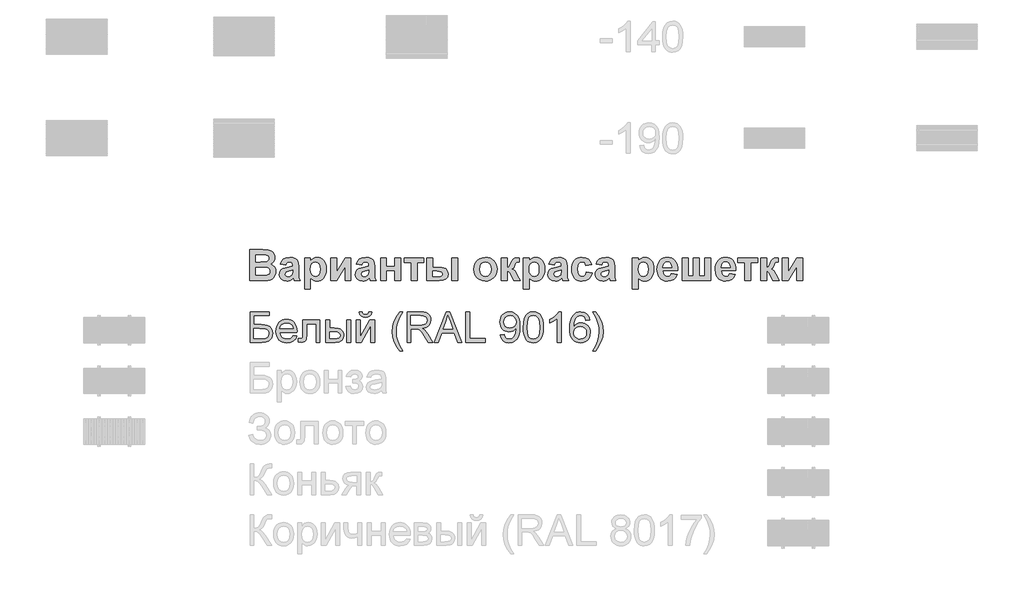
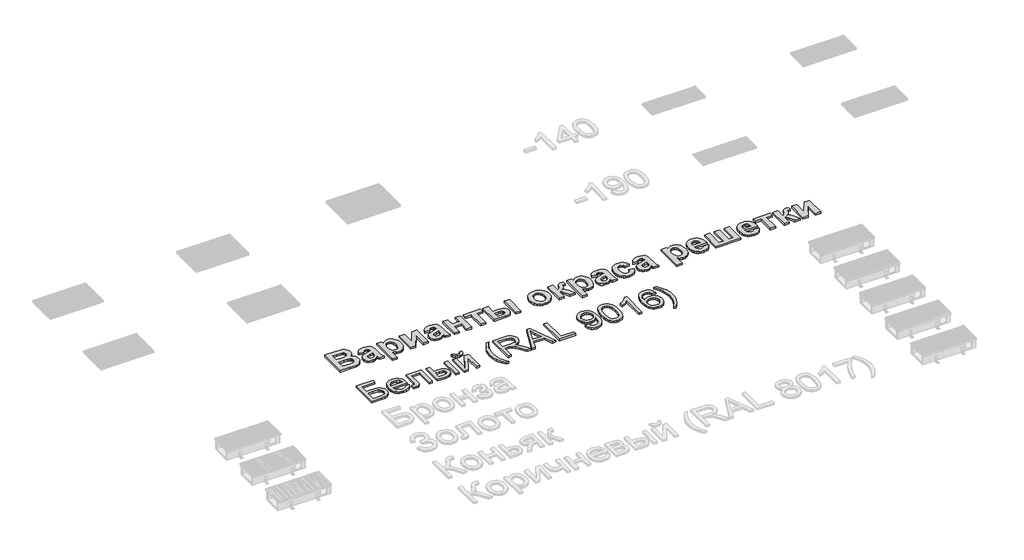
# One storey, part 7 of 12: 2 proxies.
"""IFC4 building model written with IfcOpenShell, lengths in millimetres."""

from ifc_helpers import new_model, si_unit, origin, origin_with_axes, place, context, project, spatial, polyline, outline, extrude, element, save

model = new_model("IFC4")

# Units and contexts
model_context = context("Model", 3, world=origin())
ifc_project = project(units=[si_unit("LENGTHUNIT", "METRE", prefix="MILLI")], contexts=[model_context])

# Site, building, storey
site = spatial("IfcSite", under=ifc_project)
building = spatial("IfcBuilding", under=site)
storey = spatial("IfcBuildingStorey", under=building, Name="Уровень 1", Elevation=0.0)

# Proxies
placement = place(None, origin())
element("IfcBuildingElementProxy", 1, Name="300", ObjectType="300", at=placement, inside=storey, context=model_context, shape_type="SweptSolid", body=[
    extrude(outline(polyline([(7102.1636245, -12613.7438159), (7290.519206, -12613.7438159), (7290.519206, -12651.4149322), (7139.8347408, -12651.4149322), (7139.8347408, -12740.8838335), (7210.3945075, -12740.8838335), (7245.4720557, -12742.7968198), (7272.5665647, -12748.535779), (7293.3702915, -12759.5906329), (7309.5754934, -12777.4513038), (7320.0049479, -12800.4439285), (7323.4814328, -12826.8946439), (7321.0074264, -12849.1055194), (7313.5854071, -12869.8264728), (7301.2521632, -12887.9722522), (7284.0444829, -12902.4576057), (7257.501797, -12911.9489612), (7217.1635362, -12915.1127464), (7102.1636245, -12915.1127464), (7102.1636245, -12613.7438159)]), holes=[polyline([(7139.8347408, -12877.4416301), (7220.5480505, -12877.4416301), (7249.0772993, -12874.3330272), (7269.4763559, -12865.0072186), (7281.7268263, -12849.4642043), (7285.8103165, -12827.7039843), (7283.4742658, -12811.4987824), (7276.4661138, -12798.1998483), (7265.2916982, -12788.3406108), (7250.4568567, -12782.4544989), (7193.6926649, -12778.5549498), (7139.8347408, -12778.5549498), (7139.8347408, -12877.4416301)])]), origin_with_axes(), (0.0, 0.0, 1.0), 20.0),
    extrude(outline(polyline([(7525.5222245, -12849.1882928), (7562.4575769, -12853.8971824), (7549.1494457, -12881.7274553), (7527.9134575, -12902.5311821), (7499.2278589, -12915.4990225), (7463.5708966, -12919.8216359), (7440.1965943, -12917.9569341), (7419.3698748, -12912.3628285), (7401.0907382, -12903.0393192), (7385.3591844, -12889.9864061), (7372.7086423, -12873.5673728), (7363.6725408, -12854.1455027), (7358.2508799, -12831.7207959), (7356.4436596, -12806.2932522), (7358.269274, -12780.0034851), (7363.7461172, -12756.831518), (7372.8741892, -12736.7773507), (7385.65349, -12719.8409833), (7401.3436571, -12706.3856994), (7419.2043279, -12696.7747822), (7439.2355026, -12691.008232), (7461.437181, -12689.0860485), (7482.9237888, -12691.0036334), (7502.3548559, -12696.7563881), (7519.7303824, -12706.3443126), (7535.0503682, -12719.7674069), (7547.5560568, -12736.6669861), (7556.4886915, -12756.6843652), (7561.8482723, -12779.8195441), (7563.6347992, -12806.072523), (7563.41407, -12816.2260661), (7394.1147759, -12816.2260661), (7400.6354842, -12844.424221), (7415.7830254, -12865.1543714), (7437.6444129, -12877.9014826), (7464.3066605, -12882.1505196), (7484.3562293, -12880.1823509), (7501.2420129, -12874.2778449), (7514.9640113, -12864.0691195), (7525.5222245, -12849.1882928)]), holes=[polyline([(7394.1147759, -12778.5549498), (7525.9636829, -12778.5549498), (7520.8685173, -12758.6525338), (7510.8805211, -12744.4155006), (7488.917966, -12731.1717488), (7461.2900282, -12726.7571648), (7435.8969735, -12730.279635), (7414.9001086, -12740.8470453), (7400.3043904, -12757.3189616), (7394.1147759, -12778.5549498)])]), origin_with_axes(), (0.0, 0.0, 1.0), 20.0),
    extrude(outline(polyline([(7620.1414737, -12693.7949381), (7789.6614971, -12693.7949381), (7789.6614971, -12914.8920172), (7751.9903808, -12914.8920172), (7751.9903808, -12731.4660544), (7657.81259, -12731.4660544), (7657.81259, -12837.048187), (7655.2742042, -12885.7557632), (7650.5193295, -12896.783026), (7641.3314766, -12906.3203667), (7627.388749, -12912.9146515), (7608.3692499, -12915.1127464), (7577.7614679, -12913.19976), (7577.7614679, -12877.4416301), (7594.6104632, -12877.4416301), (7611.6433996, -12875.1239735), (7618.4492165, -12867.7663336), (7620.1414737, -12834.9144714), (7620.1414737, -12693.7949381)])), origin_with_axes(), (0.0, 0.0, 1.0), 20.0),
    extrude(outline(polyline([(8053.3593112, -12693.7949381), (8091.0304275, -12693.7949381), (8091.0304275, -12915.1127464), (8053.3593112, -12915.1127464), (8053.3593112, -12693.7949381)])), origin_with_axes(), (0.0, 0.0, 1.0), 20.0),
    extrude(outline(polyline([(7846.1681715, -12693.7949381), (7883.8392878, -12693.7949381), (7883.8392878, -12773.8460602), (7930.4131484, -12773.8460602), (7970.6686358, -12778.5641468), (7986.885334, -12784.4617551), (8000.4946685, -12792.7184066), (8011.2621147, -12803.0489929), (8018.9531476, -12815.1684053), (8023.5677674, -12829.076644), (8025.105974, -12844.7737089), (8019.946429, -12871.7302621), (8004.4677941, -12894.4745665), (7992.605899, -12903.5037702), (7977.6583937, -12909.9532014), (7938.5065523, -12915.1127464), (7846.1681715, -12915.1127464), (7846.1681715, -12693.7949381)]), holes=[polyline([(7883.8392878, -12877.4416301), (7922.5404737, -12877.4416301), (7952.5412504, -12875.4642644), (7972.4988487, -12869.5321672), (7983.7008554, -12859.4062153), (7987.4348577, -12844.8472853), (7984.6665457, -12832.5416326), (7976.3616096, -12821.6707196), (7958.6021063, -12814.0555623), (7927.4700925, -12811.5171765), (7883.8392878, -12811.5171765), (7883.8392878, -12877.4416301)])]), origin_with_axes(), (0.0, 0.0, 1.0), 20.0),
    extrude(outline(polyline([(8147.537102, -12693.7949381), (8185.2082183, -12693.7949381), (8185.2082183, -12862.5791975), (8277.7673283, -12693.7949381), (8326.4749044, -12693.7949381), (8326.4749044, -12915.1127464), (8288.8037881, -12915.1127464), (8288.8037881, -12747.3585566), (8196.8332893, -12915.1127464), (8147.537102, -12915.1127464), (8147.537102, -12693.7949381)])), origin_with_axes(), (0.0, 0.0, 1.0), 20.0),
    extrude(outline(polyline([(8269.96823, -12613.7438159), (8298.2215672, -12613.7438159), (8292.1423172, -12637.8676778), (8279.937832, -12655.6455752), (8262.1599346, -12666.5992616), (8239.360448, -12670.2504904), (8214.6203838, -12666.6268527), (8195.4353378, -12655.7559398), (8182.3203446, -12638.0056335), (8175.7904392, -12613.7438159), (8204.0437764, -12613.7438159), (8208.016902, -12626.1506362), (8214.6387779, -12634.9706071), (8223.9461924, -12640.2405166), (8235.9759336, -12641.9971532), (8249.5507792, -12640.2956989), (8259.3732285, -12635.1913363), (8265.9951044, -12626.4265477), (8269.96823, -12613.7438159)])), origin_with_axes(), (0.0, 0.0, 1.0), 20.0),
    extrude(outline(polyline([(8576.04605, -12999.8727581), (8546.8546136, -12958.9090979), (8522.5560079, -12911.5075028), (8506.166865, -12859.9672353), (8500.7038174, -12806.5875578), (8504.7873075, -12759.7745739), (8517.0377779, -12714.984941), (8541.3547778, -12664.2540139), (8576.04605, -12613.7438159), (8604.2993872, -12613.7438159), (8569.0562921, -12673.4142755), (8547.8662891, -12731.2453252), (8540.7477725, -12768.9348356), (8538.3749337, -12806.808287), (8542.495212, -12855.1019959), (8554.856047, -12903.3773107), (8575.4574388, -12951.6342315), (8604.2993872, -12999.8727581), (8576.04605, -12999.8727581)])), origin_with_axes(), (0.0, 0.0, 1.0), 20.0),
    extrude(outline(polyline([(8646.679393, -12915.1127464), (8646.679393, -12613.7438159), (8776.5417373, -12613.7438159), (8811.4445416, -12615.776364), (8836.8375963, -12621.874008), (8855.397243, -12633.1311971), (8869.7998231, -12650.64238), (8879.0428582, -12672.3566148), (8882.12387, -12696.2229593), (8877.0195073, -12725.9110363), (8861.7064192, -12750.5223417), (8850.1066401, -12760.5517246), (8835.7247533, -12768.5669536), (8798.614657, -12778.5549498), (8820.0253892, -12794.6681812), (8850.5595948, -12833.4429435), (8900.8122753, -12915.1127464), (8857.0343179, -12915.1127464), (8817.8180972, -12852.6463836), (8789.4911836, -12811.2964473), (8769.5887676, -12791.7619134), (8751.6729145, -12784.5882145), (8729.820724, -12783.2638393), (8684.3505093, -12783.2638393), (8684.3505093, -12915.1127464), (8646.679393, -12915.1127464)]), holes=[polyline([(8684.3505093, -12745.592723), (8768.6690626, -12745.592723), (8792.884895, -12744.2591508), (8811.6744679, -12740.2584341), (8825.8195306, -12733.3238585), (8836.1018324, -12723.1887095), (8842.3650233, -12710.929042), (8844.4527536, -12697.6209108), (8840.4704311, -12679.2452052), (8828.5234633, -12664.4379549), (8807.9680568, -12654.6706879), (8778.1604181, -12651.4149322), (8684.3505093, -12651.4149322), (8684.3505093, -12745.592723)])]), origin_with_axes(), (0.0, 0.0, 1.0), 20.0),
    extrude(outline(polyline([(8912.9523812, -12915.1127464), (9033.2497936, -12613.7438159), (9065.3291036, -12613.7438159), (9185.626516, -12915.1127464), (9145.8216841, -12915.1127464), (9111.3143529, -12820.9349556), (8987.1909678, -12820.9349556), (8952.757213, -12915.1127464), (8912.9523812, -12915.1127464)]), holes=[polyline([(9001.0233308, -12783.2638393), (9097.5555663, -12783.2638393), (9070.4058751, -12709.1724055), (9049.2894486, -12651.4149322), (9030.5274668, -12702.6976824), (9001.0233308, -12783.2638393)])]), origin_with_axes(), (0.0, 0.0, 1.0), 20.0),
    extrude(outline(polyline([(9225.8728062, -12915.1127464), (9225.8728062, -12613.7438159), (9263.5439226, -12613.7438159), (9263.5439226, -12877.4416301), (9414.2283878, -12877.4416301), (9414.2283878, -12915.1127464), (9225.8728062, -12915.1127464)])), origin_with_axes(), (0.0, 0.0, 1.0), 20.0),
    extrude(outline(polyline([(9564.912853, -12839.7705138), (9602.5839693, -12835.0616242), (9609.0219042, -12856.4447652), (9619.5065411, -12871.0036952), (9633.7803625, -12879.3638135), (9651.5858511, -12882.1505196), (9667.5611267, -12880.3570949), (9682.0832685, -12874.9768207), (9694.1497979, -12866.5983083), (9702.7582366, -12855.8101688), (9715.0822834, -12823.0686712), (9720.526937, -12779.3642902), (9720.3062078, -12772.0066503), (9707.255594, -12787.9359406), (9690.1766724, -12800.5542931), (9670.3018476, -12808.7764557), (9648.8635243, -12811.5171765), (9630.9683645, -12809.8433135), (9614.512543, -12804.8217242), (9599.4960598, -12796.4524088), (9585.9189149, -12784.7353673), (9574.6686237, -12770.2822034), (9566.6327013, -12753.704521), (9561.8111479, -12735.0023201), (9560.2039635, -12714.1756006), (9561.8893229, -12692.6545039), (9566.945401, -12673.3406992), (9575.372198, -12656.2341864), (9587.1697137, -12641.3349656), (9601.5056152, -12629.2638376), (9617.5475695, -12620.6416033), (9635.2955765, -12615.4682628), (9654.7496362, -12613.7438159), (9682.8466236, -12617.6801533), (9708.4236193, -12629.4891653), (9729.8159573, -12648.5822409), (9745.3589716, -12674.3707687), (9754.822736, -12710.0185341), (9757.9773241, -12758.689322), (9754.831933, -12810.2939689), (9745.3957598, -12850.1815742), (9729.751578, -12880.1547598), (9707.9821609, -12902.0161474), (9681.0256077, -12915.3702638), (9649.8200175, -12919.8216359), (9617.6119488, -12914.5701204), (9591.9153914, -12898.815574), (9573.944356, -12873.551278), (9564.912853, -12839.7705138)]), holes=[polyline([(9720.3062078, -12713.2926838), (9716.2411117, -12687.7616734), (9704.0458236, -12668.1167748), (9685.1182949, -12655.5903929), (9660.8564773, -12651.4149322), (9635.6933489, -12655.9122896), (9615.5334155, -12669.4043618), (9602.2896637, -12690.0517388), (9597.8750798, -12716.0150106), (9602.0505404, -12739.2927438), (9614.5769224, -12757.769617), (9634.240215, -12769.8269494), (9659.8264078, -12773.8460602), (9683.8950873, -12769.8269494), (9703.2732714, -12757.769617), (9716.0479737, -12738.6121621), (9720.3062078, -12713.2926838)])]), origin_with_axes(), (0.0, 0.0, 1.0), 20.0),
    extrude(outline(polyline([(9790.9395508, -12766.8563023), (9793.7078629, -12718.6177757), (9802.0127989, -12680.1465161), (9815.7715855, -12650.8539122), (9834.9014493, -12630.1513529), (9859.5403459, -12617.8457002), (9889.8262311, -12613.7438159), (9913.039585, -12616.1718371), (9933.8249178, -12623.4559006), (9951.207342, -12635.3108979), (9964.2119706, -12651.4517204), (9974.0344198, -12671.7404125), (9981.8703063, -12696.0390183), (9987.0022602, -12726.8951206), (9988.7129114, -12766.8563023), (9985.9721906, -12814.8189174), (9977.750028, -12853.1982066), (9964.0740148, -12882.5184016), (9944.9717422, -12903.3037343), (9920.2776633, -12915.6921605), (9889.8262311, -12919.8216359), (9869.0776866, -12918.0282112), (9850.6835869, -12912.647937), (9834.6439319, -12903.6808134), (9820.9587216, -12891.1268403), (9807.8253344, -12868.4331197), (9798.4443435, -12840.1567899), (9792.815749, -12806.2978507), (9790.9395508, -12766.8563023)]), holes=[polyline([(9828.6106671, -12766.7827259), (9833.0252511, -12826.0393183), (9838.543481, -12846.307317), (9846.2690029, -12860.3351173), (9865.9874779, -12876.696669), (9889.8262311, -12882.1505196), (9913.6649844, -12876.6782749), (9933.3834594, -12860.2615409), (9941.1089813, -12846.2107479), (9946.6272112, -12825.9473478), (9951.0417951, -12766.7827259), (9946.774364, -12708.8597058), (9941.4400751, -12688.6583857), (9933.9720706, -12674.2971923), (9914.2903838, -12657.1354973), (9889.3847727, -12651.4149322), (9865.8035369, -12656.4549156), (9846.8576141, -12671.5748656), (9838.8745748, -12687.2098504), (9833.1724039, -12708.2894887), (9828.6106671, -12766.7827259)])]), origin_with_axes(), (0.0, 0.0, 1.0), 20.0),
    extrude(outline(polyline([(10162.9418244, -12915.1127464), (10125.2707081, -12915.1127464), (10125.2707081, -12680.2568807), (10089.5861545, -12705.6775265), (10049.9284754, -12724.6970257), (10049.9284754, -12689.0860485), (10079.5153849, -12672.9912113), (10105.1475629, -12653.8429534), (10125.3534815, -12633.480685), (10138.6616127, -12613.7438159), (10162.9418244, -12613.7438159), (10162.9418244, -12915.1127464)])), origin_with_axes(), (0.0, 0.0, 1.0), 20.0),
    extrude(outline(polyline([(10445.4751967, -12693.7949381), (10407.8040804, -12698.5038276), (10401.7340274, -12679.8338164), (10393.5302589, -12667.0867052), (10376.4421403, -12655.3328755), (10355.7855662, -12651.4149322), (10338.2743833, -12653.6958006), (10321.7932699, -12660.5384057), (10307.6390101, -12674.9501829), (10296.0783184, -12694.7882195), (10288.2700231, -12722.8484187), (10285.3729524, -12761.9266836), (10300.4837053, -12744.295939), (10318.5926965, -12731.8707246), (10338.6882505, -12724.5038876), (10359.7586918, -12722.0482753), (10377.8584859, -12723.7267369), (10394.5603285, -12728.7621217), (10409.8642195, -12737.1544297), (10423.7701589, -12748.903661), (10435.3262521, -12763.3108396), (10443.5806044, -12779.6769899), (10448.5332157, -12798.0021117), (10450.1840862, -12818.2862052), (10447.0754833, -12845.2611525), (10437.7496748, -12870.2679312), (10422.9792127, -12891.4763282), (10403.5366492, -12907.0561307), (10380.3049012, -12916.6302596), (10354.1668855, -12919.8216359), (10331.7099889, -12917.7063144), (10311.4281947, -12911.36035), (10293.3215027, -12900.7837427), (10277.3899131, -12885.9764924), (10264.4013794, -12866.3131997), (10255.1238553, -12841.1684653), (10249.5573409, -12810.5422893), (10247.7018361, -12774.4346714), (10249.7619752, -12733.9538564), (10255.9423927, -12699.4051385), (10266.2430886, -12670.7885178), (10280.6640628, -12648.1039943), (10296.2944491, -12633.0714163), (10314.4172359, -12622.3338605), (10335.0324232, -12615.8913271), (10358.140011, -12613.7438159), (10391.1942083, -12619.0597108), (10417.6633178, -12635.0073953), (10436.2045704, -12660.3360706), (10445.4751967, -12693.7949381)]), holes=[polyline([(10285.3729524, -12817.6975941), (10287.5526532, -12834.3902396), (10294.0917556, -12850.328727), (10304.2452987, -12864.0323314), (10317.2683213, -12874.0203275), (10332.9860796, -12880.1179716), (10351.2238295, -12882.1505196), (10376.0834553, -12877.9382708), (10395.6271863, -12865.3015242), (10408.291524, -12845.4358965), (10412.5129699, -12819.537004), (10408.3467063, -12794.6773782), (10395.8479155, -12775.7222584), (10375.9730907, -12763.7201083), (10349.6787251, -12759.7193916), (10324.8558875, -12763.7201083), (10304.0981459, -12775.7222584), (10290.0542507, -12794.2175257), (10285.3729524, -12817.6975941)])]), origin_with_axes(), (0.0, 0.0, 1.0), 20.0),
    extrude(outline(polyline([(10501.9818711, -12999.8727581), (10473.7285339, -12999.8727581), (10502.5704823, -12951.6342315), (10523.171874, -12903.3773107), (10535.5327091, -12855.1019959), (10539.6529874, -12806.808287), (10537.2801486, -12769.2107471), (10530.1616319, -12731.9075128), (10521.1669172, -12702.3481945), (10509.1923582, -12674.0028867), (10473.7285339, -12613.7438159), (10501.9818711, -12613.7438159), (10536.6731433, -12664.2540139), (10560.9901431, -12714.984941), (10573.2406136, -12759.7745739), (10577.3241037, -12806.5875578), (10571.833465, -12859.9672353), (10555.3615486, -12911.5075028), (10531.0353517, -12958.9090979), (10501.9818711, -12999.8727581)])), origin_with_axes(), (0.0, 0.0, 1.0), 20.0),
])
element("IfcBuildingElementProxy", 2, Name="300_", ObjectType="300_", at=placement, inside=storey, context=model_context, shape_type="SweptSolid", body=[
    extrude(outline(polyline([(7098.3516663, -12000.3985377), (7223.9862873, -12000.3985377), (7279.5919429, -12003.435024), (7296.956849, -12008.1320887), (7312.385995, -12016.1503104), (7325.6421556, -12027.4232658), (7336.4881051, -12041.8845319), (7343.7187381, -12058.9173223), (7346.1289491, -12077.9048507), (7343.2537762, -12098.5909137), (7334.6282572, -12117.530997), (7321.0684481, -12133.3397039), (7303.3904043, -12144.6316374), (7325.7465348, -12155.6009441), (7342.2574291, -12172.2636628), (7352.4486363, -12193.5000889), (7355.8457053, -12218.1905182), (7353.4070273, -12238.6962898), (7346.0909931, -12258.6137422), (7334.5523451, -12276.2633189), (7319.4458257, -12289.9654633), (7300.5911435, -12299.444994), (7277.8080072, -12304.4267294), (7202.9586197, -12306.4763576), (7098.3516663, -12306.4763576), (7098.3516663, -12000.3985377)]), holes=[polyline([(7156.6522034, -12053.8406967), (7156.6522034, -12121.85799), (7201.1367279, -12121.85799), (7250.4796304, -12120.871132), (7266.0131557, -12117.3222386), (7277.8459633, -12110.3193421), (7285.3327998, -12100.204047), (7287.828412, -12087.3179583), (7285.6744045, -12074.9917217), (7279.2123821, -12065.1895643), (7268.5182569, -12058.329003), (7253.667941, -12054.8275548), (7195.6710525, -12053.8406967), (7156.6522034, -12053.8406967)]), polyline([(7156.6522034, -12175.3001491), (7156.6522034, -12253.0341986), (7218.2928755, -12253.0341986), (7263.9919945, -12251.2123068), (7277.4853805, -12247.1415174), (7288.2079728, -12239.6357028), (7295.2108693, -12228.8466873), (7297.5451682, -12214.9262954), (7295.7422544, -12202.8562623), (7290.3335132, -12192.7599454), (7281.5277029, -12184.884059), (7269.533582, -12179.4753178), (7247.9745292, -12176.3439413), (7210.4739233, -12175.3001491), (7156.6522034, -12175.3001491)])]), origin_with_axes(), (0.0, 0.0, 1.0), 20.0),
    extrude(outline(polyline([(7453.0132672, -12151.0082586), (7399.5711082, -12141.2915024), (7411.1572013, -12113.2799162), (7428.9111571, -12093.6186674), (7454.7877139, -12082.0041072), (7490.7416096, -12078.1325872), (7523.2509912, -12080.4763751), (7546.2333969, -12087.5077387), (7561.7574332, -12098.1354407), (7571.8917062, -12111.268244), (7577.4712498, -12131.6791254), (7579.3310977, -12164.1410619), (7579.3310977, -12233.0693011), (7582.4055401, -12276.4910553), (7593.906232, -12306.4763576), (7535.6056948, -12306.4763576), (7530.1400195, -12287.9537912), (7528.0903912, -12280.5903119), (7513.0028499, -12294.0172748), (7496.8904944, -12303.6296517), (7479.7153687, -12309.4084647), (7461.4395167, -12311.3347357), (7431.710418, -12306.656649), (7409.0221718, -12292.6223889), (7394.646307, -12271.4523859), (7389.854352, -12245.3670707), (7391.9893814, -12227.4897575), (7398.3944697, -12211.6620726), (7408.6521001, -12198.5862035), (7422.3447555, -12188.9643375), (7466.7533678, -12175.2242369), (7521.0305606, -12160.7250148), (7521.0305606, -12154.57613), (7519.2181578, -12139.4316546), (7513.7809495, -12129.3732937), (7503.3335388, -12123.7368159), (7486.4905288, -12121.85799), (7474.4015177, -12123.4711234), (7465.3110368, -12128.3105234), (7458.4409865, -12137.2112239), (7453.0132672, -12151.0082586)]), holes=[polyline([(7521.0305606, -12204.4504177), (7488.1605963, -12212.5350625), (7458.7066791, -12221.7583896), (7450.7928366, -12230.0517928), (7448.1548891, -12240.3568683), (7450.2709405, -12250.6904107), (7456.6190947, -12259.5246881), (7466.2314717, -12265.5881717), (7478.1401914, -12267.6093329), (7492.4306551, -12265.256056), (7505.9999533, -12258.1962253), (7514.1605103, -12250.2634048), (7518.9050201, -12240.736429), (7521.0305606, -12215.0022076), (7521.0305606, -12204.4504177)])]), origin_with_axes(), (0.0, 0.0, 1.0), 20.0),
    extrude(outline(polyline([(7637.6316348, -12082.9909653), (7695.932172, -12082.9909653), (7695.932172, -12115.1777202), (7707.983227, -12100.204047), (7723.6401096, -12088.3807285), (7742.0677858, -12080.6946225), (7762.4312222, -12078.1325872), (7780.2919295, -12080.0375079), (7796.7530065, -12085.75227), (7811.814453, -12095.2768736), (7825.4762692, -12108.6113185), (7836.81802, -12125.3428325), (7844.9192706, -12145.0586432), (7849.7800209, -12167.7587507), (7851.400271, -12193.4431548), (7849.7278313, -12219.8558412), (7844.7105121, -12243.1466401), (7836.3483135, -12263.3155515), (7824.6412354, -12280.3625754), (7810.5524134, -12293.9128955), (7795.0449829, -12303.5916957), (7778.118944, -12309.3989757), (7759.7742966, -12311.3347357), (7742.4853027, -12309.531822), (7726.9043323, -12304.1230808), (7711.7978129, -12294.3304124), (7695.932172, -12279.3757173), (7695.932172, -12389.0687853), (7637.6316348, -12389.0687853), (7637.6316348, -12082.9909653)]), holes=[polyline([(7695.932172, -12190.8621414), (7699.5854446, -12224.9846563), (7710.5452623, -12248.8590299), (7726.761997, -12262.9217571), (7746.1860204, -12267.6093329), (7764.6231857, -12263.310807), (7779.701238, -12250.4152292), (7789.7501099, -12227.708005), (7793.0997339, -12193.9745399), (7789.6552197, -12162.0914336), (7779.3216773, -12139.6214349), (7763.8830422, -12126.2988513), (7745.1232502, -12121.85799), (7725.7371829, -12126.2134501), (7709.9379651, -12139.2798302), (7699.4336203, -12160.8863281), (7695.932172, -12190.8621414)])]), origin_with_axes(), (0.0, 0.0, 1.0), 20.0),
    extrude(outline(polyline([(7895.1256739, -12082.9909653), (7953.426211, -12082.9909653), (7953.426211, -12220.4678829), (8036.0186386, -12082.9909653), (8094.3191758, -12082.9909653), (8094.3191758, -12306.4763576), (8036.0186386, -12306.4763576), (8036.0186386, -12168.9235278), (7953.426211, -12306.4763576), (7895.1256739, -12306.4763576), (7895.1256739, -12082.9909653)])), origin_with_axes(), (0.0, 0.0, 1.0), 20.0),
    extrude(outline(polyline([(8201.2034939, -12151.0082586), (8147.7613348, -12141.2915024), (8159.3474279, -12113.2799162), (8177.1013838, -12093.6186674), (8202.9779406, -12082.0041072), (8238.9318363, -12078.1325872), (8271.4412178, -12080.4763751), (8294.4236236, -12087.5077387), (8309.9476598, -12098.1354407), (8320.0819329, -12111.268244), (8325.6614765, -12131.6791254), (8327.5213243, -12164.1410619), (8327.5213243, -12233.0693011), (8330.5957667, -12276.4910553), (8342.0964586, -12306.4763576), (8283.7959215, -12306.4763576), (8278.3302461, -12287.9537912), (8276.2806179, -12280.5903119), (8261.1930765, -12294.0172748), (8245.080721, -12303.6296517), (8227.9055953, -12309.4084647), (8209.6297434, -12311.3347357), (8179.9006446, -12306.656649), (8157.2123985, -12292.6223889), (8142.8365336, -12271.4523859), (8138.0445786, -12245.3670707), (8140.1796081, -12227.4897575), (8146.5846964, -12211.6620726), (8156.8423267, -12198.5862035), (8170.5349821, -12188.9643375), (8214.9435944, -12175.2242369), (8269.2207872, -12160.7250148), (8269.2207872, -12154.57613), (8267.4083844, -12139.4316546), (8261.9711761, -12129.3732937), (8251.5237654, -12123.7368159), (8234.6807554, -12121.85799), (8222.5917443, -12123.4711234), (8213.5012634, -12128.3105234), (8206.6312131, -12137.2112239), (8201.2034939, -12151.0082586)]), holes=[polyline([(8269.2207872, -12204.4504177), (8236.3508229, -12212.5350625), (8206.8969057, -12221.7583896), (8198.9830633, -12230.0517928), (8196.3451158, -12240.3568683), (8198.4611672, -12250.6904107), (8204.8093214, -12259.5246881), (8214.4216983, -12265.5881717), (8226.3304181, -12267.6093329), (8240.6208818, -12265.256056), (8254.19018, -12258.1962253), (8262.3507369, -12250.2634048), (8267.0952468, -12240.736429), (8269.2207872, -12215.0022076), (8269.2207872, -12204.4504177)])]), origin_with_axes(), (0.0, 0.0, 1.0), 20.0),
    extrude(outline(polyline([(8385.8218615, -12082.9909653), (8444.1223986, -12082.9909653), (8444.1223986, -12165.5833929), (8526.7148262, -12165.5833929), (8526.7148262, -12082.9909653), (8585.0153634, -12082.9909653), (8585.0153634, -12306.4763576), (8526.7148262, -12306.4763576), (8526.7148262, -12209.3087957), (8444.1223986, -12209.3087957), (8444.1223986, -12306.4763576), (8385.8218615, -12306.4763576), (8385.8218615, -12082.9909653)])), origin_with_axes(), (0.0, 0.0, 1.0), 20.0),
    extrude(outline(polyline([(8619.02401, -12082.9909653), (8813.3591338, -12082.9909653), (8813.3591338, -12126.7163681), (8745.3418405, -12126.7163681), (8745.3418405, -12306.4763576), (8687.0413034, -12306.4763576), (8687.0413034, -12126.7163681), (8619.02401, -12126.7163681), (8619.02401, -12082.9909653)])), origin_with_axes(), (0.0, 0.0, 1.0), 20.0),
    extrude(outline(polyline([(8842.5094024, -12082.9909653), (8900.8099396, -12082.9909653), (8900.8099396, -12175.3001491), (8957.8958822, -12175.3001491), (8987.5395798, -12176.5432107), (9009.2125008, -12180.2723954), (9025.5431037, -12188.1672598), (9039.159847, -12201.9073604), (9048.3547071, -12220.0598551), (9051.4196605, -12241.191902), (9046.0204083, -12269.7064062), (9039.271343, -12280.9247998), (9029.8226516, -12290.1172877), (9002.8263905, -12302.3865901), (8965.031625, -12306.4763576), (8842.5094024, -12306.4763576), (8842.5094024, -12082.9909653)]), holes=[polyline([(8900.8099396, -12267.6093329), (8953.7966256, -12267.6093329), (8971.6170047, -12266.0246666), (8983.781928, -12261.2706677), (8990.7848245, -12252.9487974), (8993.1191234, -12240.6605169), (8990.1016151, -12227.8598293), (8981.0490903, -12219.8226296), (8964.1776132, -12215.5810378), (8937.7032482, -12214.1671738), (8900.8099396, -12214.1671738), (8900.8099396, -12267.6093329)])]), origin_with_axes(), (0.0, 0.0, 1.0), 20.0),
    extrude(outline(polyline([(9085.4283072, -12082.9909653), (9143.7288443, -12082.9909653), (9143.7288443, -12306.4763576), (9085.4283072, -12306.4763576), (9085.4283072, -12082.9909653)])), origin_with_axes(), (0.0, 0.0, 1.0), 20.0),
    extrude(outline(polyline([(9304.0553214, -12191.5453508), (9307.6516599, -12162.6323078), (9318.4406753, -12134.6491886), (9335.8150704, -12110.3857652), (9359.167548, -12092.6318093), (9387.0462879, -12081.7573927), (9417.9994702, -12078.1325872), (9441.9900843, -12080.1869599), (9463.7080782, -12086.3500783), (9483.1534518, -12096.6219421), (9500.3262053, -12111.0025515), (9514.3580932, -12128.5240264), (9524.3808702, -12148.2184868), (9530.3945365, -12170.0859327), (9532.3990919, -12194.1263642), (9530.3731862, -12218.3589483), (9524.2954691, -12240.4232914), (9514.1659405, -12260.3193935), (9499.9846006, -12278.0472546), (9482.7335627, -12292.6105276), (9463.3949405, -12303.0128655), (9441.968734, -12309.2542682), (9418.4549431, -12311.3347357), (9388.7258444, -12307.8712435), (9360.4200986, -12297.480767), (9336.1282081, -12280.3910424), (9318.4406753, -12256.8298065), (9307.6516599, -12227.1101967), (9304.0553214, -12191.5453508)]), holes=[polyline([(9362.3558586, -12194.7336615), (9366.388692, -12225.9050912), (9378.4871921, -12248.8210738), (9396.5068405, -12262.9122681), (9418.3031188, -12267.6093329), (9440.0804191, -12262.9122681), (9458.0431334, -12248.8210738), (9470.0846994, -12225.791223), (9474.0985548, -12194.2781885), (9470.0846994, -12163.4483635), (9458.0431334, -12140.6462491), (9440.0804191, -12126.5550548), (9418.3031188, -12121.85799), (9396.5068405, -12126.5550548), (9378.4871921, -12140.6462491), (9366.388692, -12163.5622317), (9362.3558586, -12194.7336615)])]), origin_with_axes(), (0.0, 0.0, 1.0), 20.0),
    extrude(outline(polyline([(9576.1244948, -12082.9909653), (9634.4250319, -12082.9909653), (9634.4250319, -12175.3001491), (9646.7322905, -12172.2162177), (9654.8074463, -12166.3045584), (9669.2687123, -12134.3075839), (9680.8832724, -12107.3397899), (9693.5606028, -12092.1763364), (9708.8189465, -12085.287308), (9728.1765467, -12082.9909653), (9751.0261062, -12083.9778233), (9751.2538427, -12121.85799), (9732.5414958, -12122.9966724), (9722.1035741, -12126.4127195), (9715.4612603, -12135.8258271), (9708.2875614, -12154.6520422), (9696.0467259, -12180.2913735), (9679.3650293, -12193.7468034), (9692.6117008, -12199.6157621), (9704.7956021, -12209.5555103), (9725.9750941, -12241.6473749), (9728.2524589, -12245.9743679), (9760.7428624, -12306.4763576), (9695.2306702, -12306.4763576), (9667.5986448, -12243.9247397), (9652.8716862, -12219.556937), (9645.1476242, -12215.5146146), (9634.4250319, -12214.1671738), (9634.4250319, -12306.4763576), (9576.1244948, -12306.4763576), (9576.1244948, -12082.9909653)])), origin_with_axes(), (0.0, 0.0, 1.0), 20.0),
    extrude(outline(polyline([(9789.8931309, -12082.9909653), (9848.1936681, -12082.9909653), (9848.1936681, -12115.1777202), (9860.2447231, -12100.204047), (9875.9016057, -12088.3807285), (9894.3292819, -12080.6946225), (9914.6927183, -12078.1325872), (9932.5534256, -12080.0375079), (9949.0145026, -12085.75227), (9964.0759491, -12095.2768736), (9977.7377653, -12108.6113185), (9989.0795161, -12125.3428325), (9997.1807667, -12145.0586432), (10002.041517, -12167.7587507), (10003.6617671, -12193.4431548), (10001.9893274, -12219.8558412), (9996.9720082, -12243.1466401), (9988.6098096, -12263.3155515), (9976.9027315, -12280.3625754), (9962.8139095, -12293.9128955), (9947.306479, -12303.5916957), (9930.3804401, -12309.3989757), (9912.0357927, -12311.3347357), (9894.7467988, -12309.531822), (9879.1658284, -12304.1230808), (9864.059309, -12294.3304124), (9848.1936681, -12279.3757173), (9848.1936681, -12389.0687853), (9789.8931309, -12389.0687853), (9789.8931309, -12082.9909653)]), holes=[polyline([(9848.1936681, -12190.8621414), (9851.8469407, -12224.9846563), (9862.8067584, -12248.8590299), (9879.0234931, -12262.9217571), (9898.4475165, -12267.6093329), (9916.8846818, -12263.310807), (9931.9627341, -12250.4152292), (9942.011606, -12227.708005), (9945.36123, -12193.9745399), (9941.9167158, -12162.0914336), (9931.5831734, -12139.6214349), (9916.1445383, -12126.2988513), (9897.3847463, -12121.85799), (9877.998679, -12126.2134501), (9862.1994612, -12139.2798302), (9851.6951164, -12160.8863281), (9848.1936681, -12190.8621414)])]), origin_with_axes(), (0.0, 0.0, 1.0), 20.0),
    extrude(outline(polyline([(10095.9709509, -12151.0082586), (10042.5287919, -12141.2915024), (10054.114885, -12113.2799162), (10071.8688408, -12093.6186674), (10097.7453976, -12082.0041072), (10133.6992933, -12078.1325872), (10166.2086749, -12080.4763751), (10189.1910806, -12087.5077387), (10204.7151169, -12098.1354407), (10214.8493899, -12111.268244), (10220.4289335, -12131.6791254), (10222.2887814, -12164.1410619), (10222.2887814, -12233.0693011), (10225.3632238, -12276.4910553), (10236.8639157, -12306.4763576), (10178.5633785, -12306.4763576), (10173.0977032, -12287.9537912), (10171.0480749, -12280.5903119), (10155.9605336, -12294.0172748), (10139.8481781, -12303.6296517), (10122.6730524, -12309.4084647), (10104.3972004, -12311.3347357), (10074.6681017, -12306.656649), (10051.9798555, -12292.6223889), (10037.6039907, -12271.4523859), (10032.8120357, -12245.3670707), (10034.9470651, -12227.4897575), (10041.3521534, -12211.6620726), (10051.6097838, -12198.5862035), (10065.3024392, -12188.9643375), (10109.7110515, -12175.2242369), (10163.9882443, -12160.7250148), (10163.9882443, -12154.57613), (10162.1758415, -12139.4316546), (10156.7386332, -12129.3732937), (10146.2912225, -12123.7368159), (10129.4482125, -12121.85799), (10117.3592014, -12123.4711234), (10108.2687205, -12128.3105234), (10101.3986702, -12137.2112239), (10095.9709509, -12151.0082586)]), holes=[polyline([(10163.9882443, -12204.4504177), (10131.11828, -12212.5350625), (10101.6643628, -12221.7583896), (10093.7505203, -12230.0517928), (10091.1125728, -12240.3568683), (10093.2286242, -12250.6904107), (10099.5767784, -12259.5246881), (10109.1891554, -12265.5881717), (10121.0978751, -12267.6093329), (10135.3883388, -12265.256056), (10148.957637, -12258.1962253), (10157.118194, -12250.2634048), (10161.8627038, -12240.736429), (10163.9882443, -12215.0022076), (10163.9882443, -12204.4504177)])]), origin_with_axes(), (0.0, 0.0, 1.0), 20.0),
    extrude(outline(polyline([(10465.2076862, -12146.1498805), (10406.907149, -12155.8666367), (10402.4378207, -12141.0352989), (10394.4955112, -12130.3981078), (10383.3648911, -12123.9930195), (10369.3306309, -12121.85799), (10350.8460205, -12125.8623564), (10336.5365788, -12137.8754553), (10327.3701857, -12159.2637058), (10324.3147214, -12191.3935265), (10327.493543, -12227.0153065), (10337.0300078, -12250.3772731), (10351.9182798, -12263.3013179), (10371.1525227, -12267.6093329), (10385.718168, -12265.1516768), (10397.3801732, -12257.7787085), (10406.0816043, -12244.3897016), (10411.7655271, -12223.88393), (10470.0660642, -12233.6006862), (10457.3033327, -12267.3721074), (10436.4749344, -12291.711443), (10407.391089, -12306.4289125), (10369.862016, -12311.3347357), (10347.3422, -12309.4037202), (10327.2278504, -12303.6106737), (10309.5189674, -12293.9555961), (10294.2155509, -12280.4384875), (10281.877453, -12263.5100764), (10273.0645259, -12243.621091), (10267.7767697, -12220.7715316), (10266.0141843, -12194.9613979), (10267.7649084, -12168.8594769), (10273.0170808, -12145.8177648), (10281.7707015, -12125.8362616), (10294.0257705, -12108.9149671), (10309.2698806, -12095.4476759), (10326.990625, -12085.8281822), (10347.1880034, -12080.0564859), (10369.862016, -12078.1325872), (10404.9524109, -12082.3362229), (10432.0340732, -12094.9471301), (10451.8661244, -12116.1550892), (10465.2076862, -12146.1498805)])), origin_with_axes(), (0.0, 0.0, 1.0), 20.0),
    extrude(outline(polyline([(10562.3752481, -12151.0082586), (10508.933089, -12141.2915024), (10520.5191821, -12113.2799162), (10538.273138, -12093.6186674), (10564.1496947, -12082.0041072), (10600.1035904, -12078.1325872), (10632.612972, -12080.4763751), (10655.5953778, -12087.5077387), (10671.119414, -12098.1354407), (10681.2536871, -12111.268244), (10686.8332307, -12131.6791254), (10688.6930785, -12164.1410619), (10688.6930785, -12233.0693011), (10691.7675209, -12276.4910553), (10703.2682128, -12306.4763576), (10644.9676757, -12306.4763576), (10639.5020003, -12287.9537912), (10637.4523721, -12280.5903119), (10622.3648307, -12294.0172748), (10606.2524752, -12303.6296517), (10589.0773495, -12309.4084647), (10570.8014976, -12311.3347357), (10541.0723988, -12306.656649), (10518.3841526, -12292.6223889), (10504.0082878, -12271.4523859), (10499.2163328, -12245.3670707), (10501.3513623, -12227.4897575), (10507.7564506, -12211.6620726), (10518.0140809, -12198.5862035), (10531.7067363, -12188.9643375), (10576.1153486, -12175.2242369), (10630.3925414, -12160.7250148), (10630.3925414, -12154.57613), (10628.5801386, -12139.4316546), (10623.1429303, -12129.3732937), (10612.6955196, -12123.7368159), (10595.8525096, -12121.85799), (10583.7634985, -12123.4711234), (10574.6730176, -12128.3105234), (10567.8029673, -12137.2112239), (10562.3752481, -12151.0082586)]), holes=[polyline([(10630.3925414, -12204.4504177), (10597.5225771, -12212.5350625), (10568.0686599, -12221.7583896), (10560.1548174, -12230.0517928), (10557.51687, -12240.3568683), (10559.6329214, -12250.6904107), (10565.9810755, -12259.5246881), (10575.5934525, -12265.5881717), (10587.5021723, -12267.6093329), (10601.792636, -12265.256056), (10615.3619342, -12258.1962253), (10623.5224911, -12250.2634048), (10628.267001, -12240.736429), (10630.3925414, -12215.0022076), (10630.3925414, -12204.4504177)])]), origin_with_axes(), (0.0, 0.0, 1.0), 20.0),
    extrude(outline(polyline([(10863.5946899, -12082.9909653), (10921.8952271, -12082.9909653), (10921.8952271, -12115.1777202), (10933.9462821, -12100.204047), (10949.6031647, -12088.3807285), (10968.0308409, -12080.6946225), (10988.3942773, -12078.1325872), (11006.2549846, -12080.0375079), (11022.7160616, -12085.75227), (11037.7775081, -12095.2768736), (11051.4393243, -12108.6113185), (11062.7810751, -12125.3428325), (11070.8823257, -12145.0586432), (11075.743076, -12167.7587507), (11077.3633261, -12193.4431548), (11075.6908864, -12219.8558412), (11070.6735672, -12243.1466401), (11062.3113686, -12263.3155515), (11050.6042905, -12280.3625754), (11036.5154685, -12293.9128955), (11021.008038, -12303.5916957), (11004.0819991, -12309.3989757), (10985.7373517, -12311.3347357), (10968.4483578, -12309.531822), (10952.8673874, -12304.1230808), (10937.7608681, -12294.3304124), (10921.8952271, -12279.3757173), (10921.8952271, -12389.0687853), (10863.5946899, -12389.0687853), (10863.5946899, -12082.9909653)]), holes=[polyline([(10921.8952271, -12190.8621414), (10925.5484997, -12224.9846563), (10936.5083174, -12248.8590299), (10952.7250521, -12262.9217571), (10972.1490755, -12267.6093329), (10990.5862408, -12263.310807), (11005.6642931, -12250.4152292), (11015.713165, -12227.708005), (11019.062789, -12193.9745399), (11015.6182748, -12162.0914336), (11005.2847324, -12139.6214349), (10989.8460973, -12126.2988513), (10971.0863053, -12121.85799), (10951.700238, -12126.2134501), (10935.9010202, -12139.2798302), (10925.3966754, -12160.8863281), (10921.8952271, -12190.8621414)])]), origin_with_axes(), (0.0, 0.0, 1.0), 20.0),
    extrude(outline(polyline([(11247.4065595, -12238.4590643), (11305.7070966, -12248.1758205), (11291.5115231, -12275.38084), (11270.9393283, -12295.2034022), (11244.1992708, -12307.3019024), (11211.5001088, -12311.3347357), (11185.0969115, -12308.9577363), (11162.3659647, -12301.826738), (11143.3072686, -12289.9417408), (11127.9208232, -12273.3027447), (11118.5551607, -12257.0812655), (11111.8654018, -12238.8576031), (11106.5135947, -12196.4037289), (11108.2880414, -12170.1950565), (11113.6113814, -12146.9849142), (11122.4836149, -12126.7733022), (11134.9047417, -12109.5602205), (11150.0397281, -12095.8106309), (11167.0535405, -12085.9894955), (11185.9461787, -12080.0968143), (11206.7176429, -12078.1325872), (11229.7996834, -12080.1490039), (11250.3101995, -12086.1982539), (11268.2491913, -12096.2803374), (11283.6166587, -12110.3952542), (11295.8622386, -12128.6758507), (11304.4355679, -12151.2549731), (11309.3366466, -12178.1326215), (11310.5654747, -12209.3087957), (11164.8141318, -12209.3087957), (11168.5528056, -12233.8663788), (11178.5542324, -12252.275077), (11193.300169, -12263.7757689), (11211.2723724, -12267.6093329), (11223.5132078, -12265.8823313), (11233.6664589, -12260.7013265), (11241.6562135, -12251.6867578), (11247.4065595, -12238.4590643)]), holes=[polyline([(11252.2649375, -12175.3001491), (11248.7160442, -12152.2513202), (11239.2839586, -12135.4842223), (11225.5818141, -12125.2645481), (11209.2227441, -12121.85799), (11191.9527282, -12125.4448395), (11177.9469351, -12136.2053878), (11168.761564, -12153.1907331), (11165.8009899, -12175.3001491), (11252.2649375, -12175.3001491)])]), origin_with_axes(), (0.0, 0.0, 1.0), 20.0),
    extrude(outline(polyline([(11354.2908775, -12082.9909653), (11412.5914147, -12082.9909653), (11412.5914147, -12262.7509548), (11466.0335737, -12262.7509548), (11466.0335737, -12082.9909653), (11524.3341109, -12082.9909653), (11524.3341109, -12262.7509548), (11577.7762699, -12262.7509548), (11577.7762699, -12082.9909653), (11636.0768071, -12082.9909653), (11636.0768071, -12306.4763576), (11354.2908775, -12306.4763576), (11354.2908775, -12082.9909653)])), origin_with_axes(), (0.0, 0.0, 1.0), 20.0),
    extrude(outline(polyline([(11820.6951747, -12238.4590643), (11878.9957118, -12248.1758205), (11864.8001383, -12275.38084), (11844.2279436, -12295.2034022), (11817.487886, -12307.3019024), (11784.7887241, -12311.3347357), (11758.3855267, -12308.9577363), (11735.65458, -12301.826738), (11716.5958839, -12289.9417408), (11701.2094384, -12273.3027447), (11691.8437759, -12257.0812655), (11685.154017, -12238.8576031), (11679.8022099, -12196.4037289), (11681.5766566, -12170.1950565), (11686.8999967, -12146.9849142), (11695.7722301, -12126.7733022), (11708.1933569, -12109.5602205), (11723.3283434, -12095.8106309), (11740.3421557, -12085.9894955), (11759.234794, -12080.0968143), (11780.0062581, -12078.1325872), (11803.0882986, -12080.1490039), (11823.5988147, -12086.1982539), (11841.5378065, -12096.2803374), (11856.9052739, -12110.3952542), (11869.1508538, -12128.6758507), (11877.7241832, -12151.2549731), (11882.6252618, -12178.1326215), (11883.8540899, -12209.3087957), (11738.102747, -12209.3087957), (11741.8414208, -12233.8663788), (11751.8428476, -12252.275077), (11766.5887842, -12263.7757689), (11784.5609876, -12267.6093329), (11796.801823, -12265.8823313), (11806.9550741, -12260.7013265), (11814.9448287, -12251.6867578), (11820.6951747, -12238.4590643)]), holes=[polyline([(11825.5535528, -12175.3001491), (11822.0046594, -12152.2513202), (11812.5725738, -12135.4842223), (11798.8704293, -12125.2645481), (11782.5113593, -12121.85799), (11765.2413434, -12125.4448395), (11751.2355503, -12136.2053878), (11742.0501793, -12153.1907331), (11739.0896051, -12175.3001491), (11825.5535528, -12175.3001491)])]), origin_with_axes(), (0.0, 0.0, 1.0), 20.0),
    extrude(outline(polyline([(11903.2876023, -12082.9909653), (12097.6227261, -12082.9909653), (12097.6227261, -12126.7163681), (12029.6054328, -12126.7163681), (12029.6054328, -12306.4763576), (11971.3048956, -12306.4763576), (11971.3048956, -12126.7163681), (11903.2876023, -12126.7163681), (11903.2876023, -12082.9909653)])), origin_with_axes(), (0.0, 0.0, 1.0), 20.0),
    extrude(outline(polyline([(12126.7729947, -12082.9909653), (12185.0735318, -12082.9909653), (12185.0735318, -12175.3001491), (12197.3807904, -12172.2162177), (12205.4559461, -12166.3045584), (12219.9172122, -12134.3075839), (12231.5317723, -12107.3397899), (12244.2091027, -12092.1763364), (12259.4674464, -12085.287308), (12278.8250466, -12082.9909653), (12301.6746061, -12083.9778233), (12301.9023425, -12121.85799), (12283.1899957, -12122.9966724), (12272.752074, -12126.4127195), (12266.1097602, -12135.8258271), (12258.9360613, -12154.6520422), (12246.6952258, -12180.2913735), (12230.0135292, -12193.7468034), (12243.2602007, -12199.6157621), (12255.444102, -12209.5555103), (12276.623594, -12241.6473749), (12278.9009588, -12245.9743679), (12311.3913623, -12306.4763576), (12245.8791701, -12306.4763576), (12218.2471447, -12243.9247397), (12203.5201861, -12219.556937), (12195.7961241, -12215.5146146), (12185.0735318, -12214.1671738), (12185.0735318, -12306.4763576), (12126.7729947, -12306.4763576), (12126.7729947, -12082.9909653)])), origin_with_axes(), (0.0, 0.0, 1.0), 20.0),
    extrude(outline(polyline([(12340.5416308, -12082.9909653), (12398.842168, -12082.9909653), (12398.842168, -12220.4678829), (12481.4345956, -12082.9909653), (12539.7351327, -12082.9909653), (12539.7351327, -12306.4763576), (12481.4345956, -12306.4763576), (12481.4345956, -12168.9235278), (12398.842168, -12306.4763576), (12340.5416308, -12306.4763576), (12340.5416308, -12082.9909653)])), origin_with_axes(), (0.0, 0.0, 1.0), 20.0),
])

save(model, "model.ifc")
